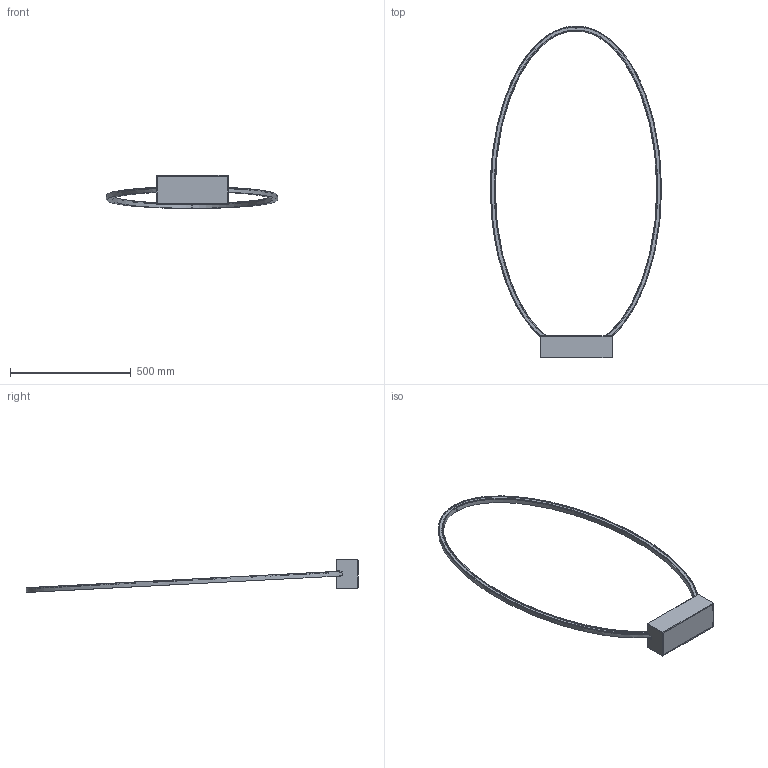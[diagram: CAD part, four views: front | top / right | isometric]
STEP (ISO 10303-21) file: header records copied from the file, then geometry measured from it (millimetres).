
FILE_DESCRIPTION (( 'STEP AP214' ), '1' );
FILE_NAME ('3D_ELLISSE_FLOOR.STEP', '2018-02-15T16:21:59', ( 'Utente' ), ( '' ), 'SwSTEP 2.0', 'SolidWorks 2016', '' );
FILE_SCHEMA (( 'AUTOMOTIVE_DESIGN' ));
Length unit declared in the file: millimetre
Products named in the file (3): Group1^3D_ELLISSE_FLOOR; 3D_ELLISSE_FLOOR; Group2^3D_ELLISSE_FLOOR
Assembly tree (2 placements, depth 2):
  3D_ELLISSE_FLOOR
    Group1^3D_ELLISSE_FLOOR
    Group2^3D_ELLISSE_FLOOR
Bounding box: 708.98 x 1374.92 x 136.75 mm (x, y, z)
Volume: 4065412.9 mm3; surface area: 574013.7 mm2
Topology: 5 solids, 5 shells, 427 faces, 1204 edges, 788 vertices
Faces by surface type: cylinder 239, plane 141, bspline 46, torus 1
Entity records: 19936 total; most frequent: CARTESIAN_POINT 8628, ORIENTED_EDGE 2408, DIRECTION 2320, EDGE_CURVE 1204, AXIS2_PLACEMENT_3D 840, VERTEX_POINT 788, VECTOR 640, LINE 640
